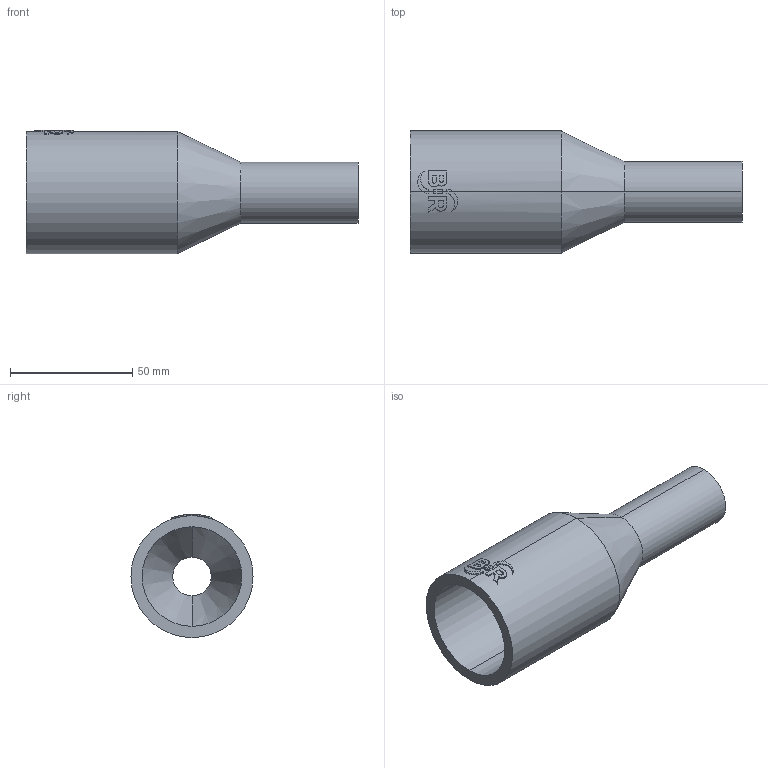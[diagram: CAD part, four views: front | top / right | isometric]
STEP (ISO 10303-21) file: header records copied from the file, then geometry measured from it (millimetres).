
FILE_DESCRIPTION (( 'STEP AP214' ), '1' );
FILE_NAME ('2323100715.STEP', '2018-07-20T10:51:26', ( '' ), ( '' ), 'SwSTEP 2.0', 'SolidWorks 2017', '' );
FILE_SCHEMA (( 'AUTOMOTIVE_DESIGN' ));
Length unit declared in the file: millimetre
Products named in the file (1): 2323100715
Bounding box: 136 x 50 x 50.46 mm (x, y, z)
Volume: 68401 mm3; surface area: 30738.6 mm2
Topology: 1 solids, 1 shells, 63 faces, 160 edges, 104 vertices
Faces by surface type: cylinder 31, plane 28, cone 4
Entity records: 3007 total; most frequent: CARTESIAN_POINT 798, ORIENTED_EDGE 320, DIRECTION 296, EDGE_CURVE 160, AXIS2_PLACEMENT_3D 112, VERTEX_POINT 104, LINE 72, VECTOR 72
